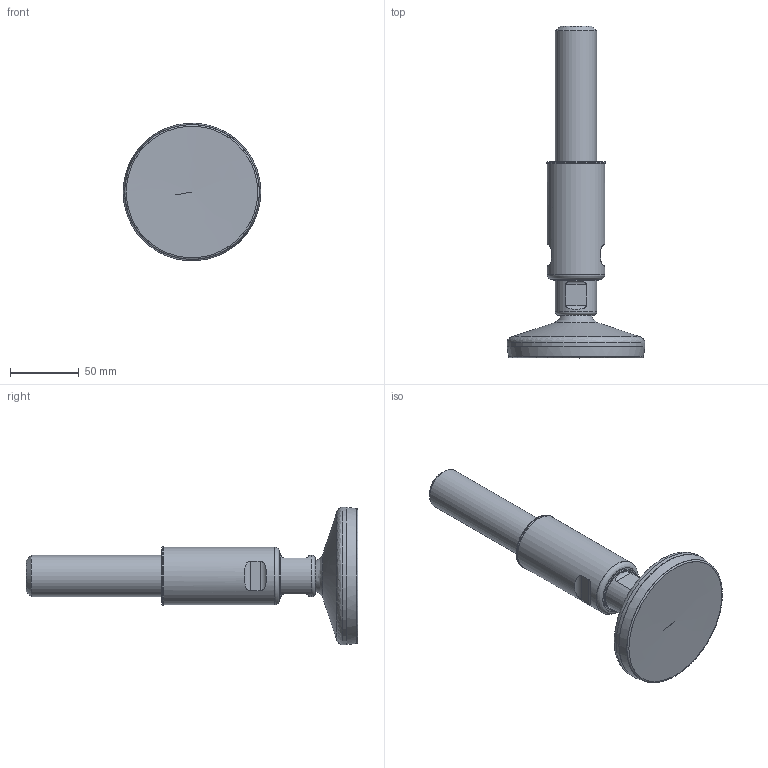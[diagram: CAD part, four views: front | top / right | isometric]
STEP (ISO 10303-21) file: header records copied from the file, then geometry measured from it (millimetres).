
FILE_DESCRIPTION(('STEP AP203'),'2;1');
FILE_NAME('27174-3A.stp','2016-07-06T11:13:22',(''),(''),'2008.1.107','THINKDESIGN','');
FILE_SCHEMA(('CONFIG_CONTROL_DESIGN'));
Length unit declared in the file: millimetre
Bounding box: 100 x 241 x 100 mm (x, y, z)
Volume: 179377.2 mm3; surface area: 89087.9 mm2
Topology: 6 solids, 6 shells, 103 faces, 308 edges, 247 vertices
Faces by surface type: cylinder 37, bspline 34, plane 32
Full cylindrical faces by diameter (mm): 8.5 x2, 10 x1, 10.3 x2, 12 x2, 16 x2, 22 x1, 26.5 x1, 29.8 x1, 30 x2, 30.4 x1, 32.8 x2, 33.5 x2, 35.778 x3, 38.5 x2, 42 x1, 42.4 x1, 94 x2, 100 x1
Entity records: 4570 total; most frequent: CARTESIAN_POINT 2004, DIRECTION 575, ORIENTED_EDGE 326, AXIS2_PLACEMENT_3D 246, CIRCLE 177, EDGE_CURVE 163, COMPOSITE_CURVE_SEGMENT 140, VERTEX_POINT 118
